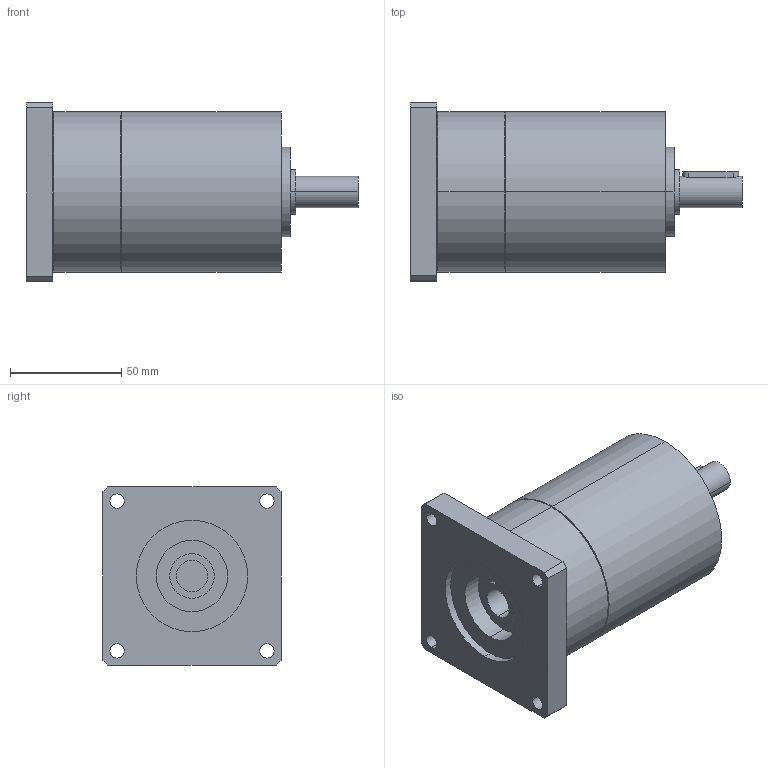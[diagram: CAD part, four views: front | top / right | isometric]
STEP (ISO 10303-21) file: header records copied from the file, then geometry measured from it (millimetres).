
FILE_DESCRIPTION(('CoCreate Modeling STEP Export'),'2;1');
FILE_NAME('GPT75_ig-9-12-16-20-25-28-35-40-50-70-100_14_B14T_14_P27.stp','2014-08-27T13:17:22',(''),(''),'CoCreate Modeling STEP processor for AP214 (Solid Model)','CoCreate Modeling 16.00C 25-Feb-2009 (C) Parametric Technology GmbH','');
FILE_SCHEMA(('AUTOMOTIVE_DESIGN { 1 0 10303 214 1 1 1 1 }'));
Length unit declared in the file: millimetre
Products named in the file (2): GPT75_ig-9-12-16-20-25-28-35-40-50-70-100_14_B14T_14_P27
Assembly tree (1 placements, depth 2):
  GPT75_ig-9-12-16-20-25-28-35-40-50-70-100_14_B14T_14_P27
    GPT75_ig-9-12-16-20-25-28-35-40-50-70-100_14_B14T_14_P27
Bounding box: 149 x 80 x 80 mm (x, y, z)
Volume: 484183.9 mm3; surface area: 46643.2 mm2
Topology: 1 solids, 1 shells, 69 faces, 163 edges, 110 vertices
Faces by surface type: cylinder 42, plane 23, cone 4
Entity records: 2146 total; most frequent: CARTESIAN_POINT 661, ORIENTED_EDGE 326, DIRECTION 262, EDGE_CURVE 163, VERTEX_POINT 110, AXIS2_PLACEMENT_3D 99, EDGE_LOOP 91, FACE_OUTER_BOUND 69
